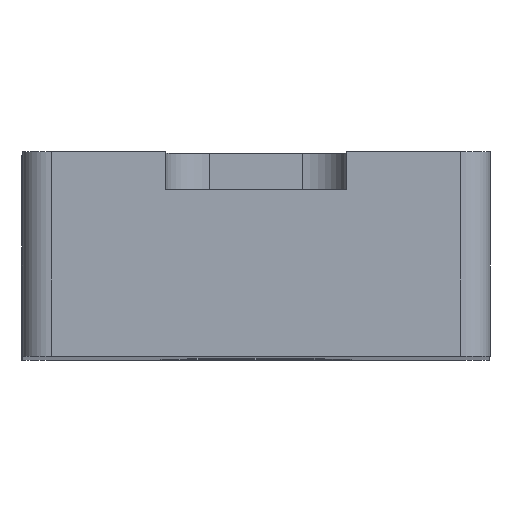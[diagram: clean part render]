
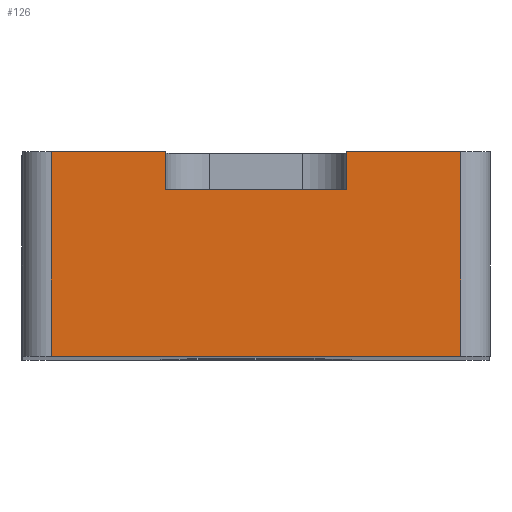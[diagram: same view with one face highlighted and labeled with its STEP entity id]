
A CAD part, top view. The second image highlights one B-rep face of the part: STEP entity #126.
In plain terms, the highlighted planar face has unit normal (0, 0, 1).
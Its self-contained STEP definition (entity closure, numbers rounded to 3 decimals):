
#13 = VECTOR ( 'NONE', #422, 1000. ) ;
#45 = VERTEX_POINT ( 'NONE', #949 ) ;
#51 = VECTOR ( 'NONE', #287, 1000. ) ;
#70 = EDGE_CURVE ( 'NONE', #917, #834, #110, .T. ) ;
#81 = VECTOR ( 'NONE', #700, 1000. ) ;
#87 = CARTESIAN_POINT ( 'NONE',  ( 7., 7., 41. ) ) ;
#110 = LINE ( 'NONE', #629, #81 ) ;
#114 = VECTOR ( 'NONE', #118, 1000. ) ;
#118 = DIRECTION ( 'NONE',  ( 0., 1., 0. ) ) ;
#123 = LINE ( 'NONE', #165, #13 ) ;
#126 = ADVANCED_FACE ( 'NONE', ( #491 ), #146, .F. ) ;
#146 = PLANE ( 'NONE',  #789 ) ;
#153 = CARTESIAN_POINT ( 'NONE',  ( -3.1, 7., 41. ) ) ;
#154 = LINE ( 'NONE', #848, #404 ) ;
#165 = CARTESIAN_POINT ( 'NONE',  ( -8., 0., 41. ) ) ;
#223 = LINE ( 'NONE', #388, #400 ) ;
#239 = EDGE_LOOP ( 'NONE', ( #266, #255, #810, #281, #712, #956, #820, #380 ) ) ;
#255 = ORIENTED_EDGE ( 'NONE', *, *, #595, .T. ) ;
#258 = DIRECTION ( 'NONE',  ( -1., 0., 0. ) ) ;
#266 = ORIENTED_EDGE ( 'NONE', *, *, #801, .F. ) ;
#274 = CARTESIAN_POINT ( 'NONE',  ( 7., 0., 41. ) ) ;
#276 = CARTESIAN_POINT ( 'NONE',  ( -7., 0., 41. ) ) ;
#278 = CARTESIAN_POINT ( 'NONE',  ( 7., 7., 41. ) ) ;
#281 = ORIENTED_EDGE ( 'NONE', *, *, #828, .T. ) ;
#287 = DIRECTION ( 'NONE',  ( 0., 1., 0. ) ) ;
#301 = EDGE_CURVE ( 'NONE', #495, #504, #123, .T. ) ;
#309 = VECTOR ( 'NONE', #635, 1000. ) ;
#315 = DIRECTION ( 'NONE',  ( 0., 0., -1. ) ) ;
#319 = CARTESIAN_POINT ( 'NONE',  ( -7., 7., 41. ) ) ;
#371 = CARTESIAN_POINT ( 'NONE',  ( -3.1, 7., 41. ) ) ;
#373 = VERTEX_POINT ( 'NONE', #319 ) ;
#380 = ORIENTED_EDGE ( 'NONE', *, *, #509, .T. ) ;
#388 = CARTESIAN_POINT ( 'NONE',  ( 3.1, 7., 41. ) ) ;
#391 = DIRECTION ( 'NONE',  ( 0., -1., 0. ) ) ;
#400 = VECTOR ( 'NONE', #391, 1000. ) ;
#404 = VECTOR ( 'NONE', #790, 1000. ) ;
#416 = VERTEX_POINT ( 'NONE', #87 ) ;
#422 = DIRECTION ( 'NONE',  ( 1., 0., 0. ) ) ;
#491 = FACE_OUTER_BOUND ( 'NONE', #239, .T. ) ;
#495 = VERTEX_POINT ( 'NONE', #276 ) ;
#504 = VERTEX_POINT ( 'NONE', #274 ) ;
#509 = EDGE_CURVE ( 'NONE', #504, #416, #511, .T. ) ;
#511 = LINE ( 'NONE', #278, #51 ) ;
#517 = CARTESIAN_POINT ( 'NONE',  ( -8., 7., 41. ) ) ;
#561 = VECTOR ( 'NONE', #972, 1000. ) ;
#595 = EDGE_CURVE ( 'NONE', #45, #917, #223, .T. ) ;
#629 = CARTESIAN_POINT ( 'NONE',  ( -8., 5.7, 41. ) ) ;
#635 = DIRECTION ( 'NONE',  ( 0., -1., 0. ) ) ;
#665 = CARTESIAN_POINT ( 'NONE',  ( 3.1, 5.7, 41. ) ) ;
#681 = CARTESIAN_POINT ( 'NONE',  ( -3.1, 5.7, 41. ) ) ;
#698 = CARTESIAN_POINT ( 'NONE',  ( -8., 7., 41. ) ) ;
#700 = DIRECTION ( 'NONE',  ( -1., 0., 0. ) ) ;
#712 = ORIENTED_EDGE ( 'NONE', *, *, #854, .F. ) ;
#757 = VERTEX_POINT ( 'NONE', #153 ) ;
#789 = AXIS2_PLACEMENT_3D ( 'NONE', #698, #315, #258 ) ;
#790 = DIRECTION ( 'NONE',  ( 1., 0., 0. ) ) ;
#801 = EDGE_CURVE ( 'NONE', #45, #416, #809, .T. ) ;
#809 = LINE ( 'NONE', #517, #561 ) ;
#810 = ORIENTED_EDGE ( 'NONE', *, *, #70, .T. ) ;
#820 = ORIENTED_EDGE ( 'NONE', *, *, #301, .T. ) ;
#828 = EDGE_CURVE ( 'NONE', #834, #757, #874, .T. ) ;
#834 = VERTEX_POINT ( 'NONE', #681 ) ;
#848 = CARTESIAN_POINT ( 'NONE',  ( -8., 7., 41. ) ) ;
#854 = EDGE_CURVE ( 'NONE', #373, #757, #154, .T. ) ;
#866 = LINE ( 'NONE', #877, #309 ) ;
#874 = LINE ( 'NONE', #371, #114 ) ;
#877 = CARTESIAN_POINT ( 'NONE',  ( -7., 7., 41. ) ) ;
#881 = EDGE_CURVE ( 'NONE', #373, #495, #866, .T. ) ;
#917 = VERTEX_POINT ( 'NONE', #665 ) ;
#949 = CARTESIAN_POINT ( 'NONE',  ( 3.1, 7., 41. ) ) ;
#956 = ORIENTED_EDGE ( 'NONE', *, *, #881, .T. ) ;
#972 = DIRECTION ( 'NONE',  ( 1., 0., 0. ) ) ;
